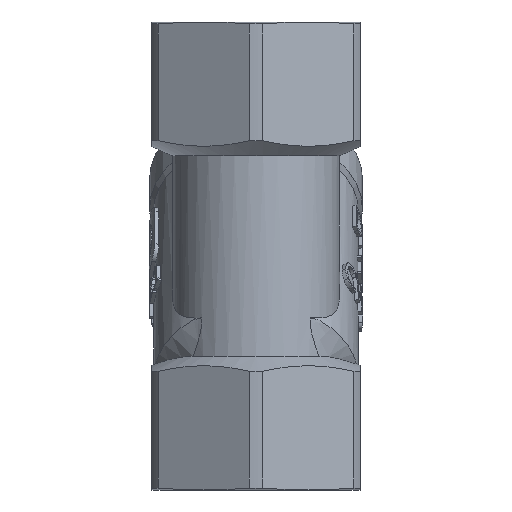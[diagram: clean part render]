
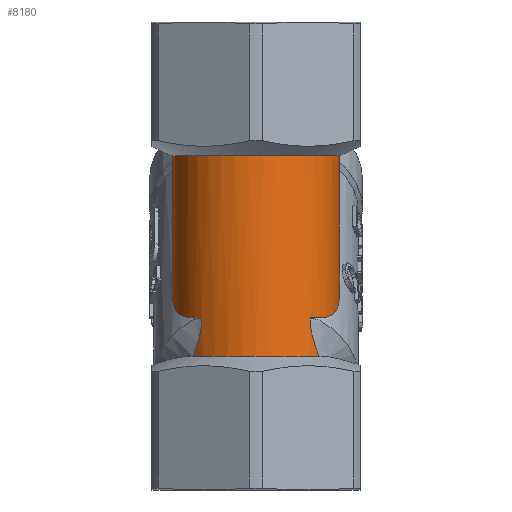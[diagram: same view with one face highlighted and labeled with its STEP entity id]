
A CAD part, front view. The second image highlights one B-rep face of the part: STEP entity #8180.
In plain terms, the highlighted cylindrical face has radius 10 mm (diameter 20 mm), a partial arc.
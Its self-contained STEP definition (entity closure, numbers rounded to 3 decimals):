
#860=FACE_OUTER_BOUND('',#1344,.T.);
#1344=EDGE_LOOP('',(#7427,#7428,#7429,#7430,#7431,#7432));
#1482=CIRCLE('',#8511,10.);
#1483=CIRCLE('',#8512,10.);
#1862=B_SPLINE_CURVE_WITH_KNOTS('',3,(#26127,#26128,#26129,#26130,#26131,
#26132,#26133,#26134,#26135,#26136,#26137,#26138,#26139,#26140,#26141,#26142,
#26143,#26144,#26145,#26146,#26147,#26148,#26149),.UNSPECIFIED.,.F.,.F.,
(4,2,2,2,2,3,2,2,2,2,4),(-2.005,-1.93,-1.271,
-0.636,-0.318,0.,0.206,0.411,
0.617,0.822,0.918),.UNSPECIFIED.);
#1865=B_SPLINE_CURVE_WITH_KNOTS('',3,(#26171,#26172,#26173,#26174,#26175,
#26176,#26177,#26178,#26179,#26180,#26181,#26182,#26183,#26184,#26185,#26186,
#26187,#26188,#26189,#26190,#26191,#26192),.UNSPECIFIED.,.F.,.F.,(4,2,2,
2,2,2,2,2,2,2,4),(-5.485,-5.39,-5.184,
-4.979,-4.773,-4.567,-4.25,
-3.932,-3.296,-2.637,-2.563),
 .UNSPECIFIED.);
#2220=B_SPLINE_CURVE_WITH_KNOTS('',3,(#31902,#31903,#31904,#31905,#31906,
#31907,#31908),.UNSPECIFIED.,.F.,.F.,(4,1,1,1,4),(-4.569,-4.381,
-4.18,-4.08,-4.017),.UNSPECIFIED.);
#2222=B_SPLINE_CURVE_WITH_KNOTS('',3,(#31950,#31951,#31952,#31953,#31954,
#31955,#31956),.UNSPECIFIED.,.F.,.F.,(4,1,1,1,4),(-2.297,-2.235,
-2.134,-1.933,-1.746),.UNSPECIFIED.);
#3384=VERTEX_POINT('',#26097);
#3385=VERTEX_POINT('',#26126);
#3390=VERTEX_POINT('',#26163);
#3391=VERTEX_POINT('',#26170);
#3762=VERTEX_POINT('',#31895);
#3763=VERTEX_POINT('',#31941);
#4430=EDGE_CURVE('',#3385,#3384,#1862,.T.);
#4436=EDGE_CURVE('',#3391,#3390,#1865,.T.);
#4997=EDGE_CURVE('',#3762,#3384,#2220,.T.);
#4999=EDGE_CURVE('',#3391,#3763,#2222,.T.);
#5000=EDGE_CURVE('',#3762,#3763,#1482,.T.);
#5001=EDGE_CURVE('',#3390,#3385,#1483,.T.);
#7427=ORIENTED_EDGE('',*,*,#4997,.F.);
#7428=ORIENTED_EDGE('',*,*,#5000,.T.);
#7429=ORIENTED_EDGE('',*,*,#4999,.F.);
#7430=ORIENTED_EDGE('',*,*,#4436,.T.);
#7431=ORIENTED_EDGE('',*,*,#5001,.T.);
#7432=ORIENTED_EDGE('',*,*,#4430,.T.);
#7754=CYLINDRICAL_SURFACE('',#8510,10.);
#8180=ADVANCED_FACE('',(#860),#7754,.T.);
#8510=AXIS2_PLACEMENT_3D('',#31957,#9471,#9472);
#8511=AXIS2_PLACEMENT_3D('',#31958,#9473,#9474);
#8512=AXIS2_PLACEMENT_3D('',#31959,#9475,#9476);
#9471=DIRECTION('center_axis',(0.,0.,1.));
#9472=DIRECTION('ref_axis',(0.,-1.,0.));
#9473=DIRECTION('center_axis',(0.,0.,1.));
#9474=DIRECTION('ref_axis',(0.,-1.,0.));
#9475=DIRECTION('center_axis',(0.,0.,-1.));
#9476=DIRECTION('ref_axis',(0.,-1.,0.));
#26097=CARTESIAN_POINT('',(-6.509,-7.591,-7.417));
#26126=CARTESIAN_POINT('',(-2.741,9.617,12.));
#26127=CARTESIAN_POINT('Ctrl Pts',(-2.741,9.617,12.));
#26128=CARTESIAN_POINT('Ctrl Pts',(-2.959,9.555,11.867));
#26129=CARTESIAN_POINT('Ctrl Pts',(-3.164,9.488,11.725));
#26130=CARTESIAN_POINT('Ctrl Pts',(-5.038,8.821,10.303));
#26131=CARTESIAN_POINT('Ctrl Pts',(-6.34,7.835,8.234));
#26132=CARTESIAN_POINT('Ctrl Pts',(-8.05,6.055,4.694));
#26133=CARTESIAN_POINT('Ctrl Pts',(-8.729,5.034,2.73));
#26134=CARTESIAN_POINT('Ctrl Pts',(-9.454,3.319,-0.153));
#26135=CARTESIAN_POINT('Ctrl Pts',(-9.646,2.717,-1.102));
#26136=CARTESIAN_POINT('Ctrl Pts',(-9.919,1.432,-2.899));
#26137=CARTESIAN_POINT('Ctrl Pts',(-10.,0.749,-3.746));
#26138=CARTESIAN_POINT('Ctrl Pts',(-10.,0.,-4.496));
#26139=CARTESIAN_POINT('Ctrl Pts',(-10.,-0.485,-4.98));
#26140=CARTESIAN_POINT('Ctrl Pts',(-9.965,-1.024,
-5.447));
#26141=CARTESIAN_POINT('Ctrl Pts',(-9.776,-2.183,
-6.244));
#26142=CARTESIAN_POINT('Ctrl Pts',(-9.622,-2.804,
-6.572));
#26143=CARTESIAN_POINT('Ctrl Pts',(-9.166,-4.052,
-7.05));
#26144=CARTESIAN_POINT('Ctrl Pts',(-8.863,-4.683,
-7.204));
#26145=CARTESIAN_POINT('Ctrl Pts',(-8.123,-5.875,
-7.388));
#26146=CARTESIAN_POINT('Ctrl Pts',(-7.685,-6.435,
-7.42));
#26147=CARTESIAN_POINT('Ctrl Pts',(-6.991,-7.158,
-7.428));
#26148=CARTESIAN_POINT('Ctrl Pts',(-6.756,-7.379,
-7.425));
#26149=CARTESIAN_POINT('Ctrl Pts',(-6.509,-7.591,
-7.417));
#26163=CARTESIAN_POINT('',(2.741,9.617,12.));
#26170=CARTESIAN_POINT('',(6.509,-7.591,-7.417));
#26171=CARTESIAN_POINT('Ctrl Pts',(6.509,-7.591,-7.417));
#26172=CARTESIAN_POINT('Ctrl Pts',(6.756,-7.379,-7.425));
#26173=CARTESIAN_POINT('Ctrl Pts',(6.991,-7.158,-7.428));
#26174=CARTESIAN_POINT('Ctrl Pts',(7.685,-6.435,-7.42));
#26175=CARTESIAN_POINT('Ctrl Pts',(8.123,-5.875,-7.388));
#26176=CARTESIAN_POINT('Ctrl Pts',(8.863,-4.683,-7.204));
#26177=CARTESIAN_POINT('Ctrl Pts',(9.166,-4.052,-7.05));
#26178=CARTESIAN_POINT('Ctrl Pts',(9.622,-2.804,-6.572));
#26179=CARTESIAN_POINT('Ctrl Pts',(9.776,-2.183,-6.244));
#26180=CARTESIAN_POINT('Ctrl Pts',(9.965,-1.024,-5.447));
#26181=CARTESIAN_POINT('Ctrl Pts',(10.,-0.485,-4.98));
#26182=CARTESIAN_POINT('Ctrl Pts',(10.,0.749,-3.746));
#26183=CARTESIAN_POINT('Ctrl Pts',(9.919,1.432,-2.899));
#26184=CARTESIAN_POINT('Ctrl Pts',(9.646,2.717,-1.102));
#26185=CARTESIAN_POINT('Ctrl Pts',(9.454,3.319,-0.153));
#26186=CARTESIAN_POINT('Ctrl Pts',(8.729,5.034,2.73));
#26187=CARTESIAN_POINT('Ctrl Pts',(8.05,6.055,4.694));
#26188=CARTESIAN_POINT('Ctrl Pts',(6.34,7.835,8.234));
#26189=CARTESIAN_POINT('Ctrl Pts',(5.038,8.821,10.303));
#26190=CARTESIAN_POINT('Ctrl Pts',(3.164,9.488,11.725));
#26191=CARTESIAN_POINT('Ctrl Pts',(2.959,9.555,11.867));
#26192=CARTESIAN_POINT('Ctrl Pts',(2.741,9.617,12.));
#31895=CARTESIAN_POINT('',(-7.525,-6.585,-12.));
#31902=CARTESIAN_POINT('Ctrl Pts',(-7.525,-6.585,
-12.));
#31903=CARTESIAN_POINT('Ctrl Pts',(-7.37,-6.763,
-11.563));
#31904=CARTESIAN_POINT('Ctrl Pts',(-7.047,-7.108,-10.628));
#31905=CARTESIAN_POINT('Ctrl Pts',(-6.654,-7.468,
-9.336));
#31906=CARTESIAN_POINT('Ctrl Pts',(-6.479,-7.617,-8.178));
#31907=CARTESIAN_POINT('Ctrl Pts',(-6.49,-7.608,
-7.622));
#31908=CARTESIAN_POINT('Ctrl Pts',(-6.509,-7.591,
-7.417));
#31941=CARTESIAN_POINT('',(7.527,-6.584,-12.));
#31950=CARTESIAN_POINT('Ctrl Pts',(6.509,-7.591,-7.417));
#31951=CARTESIAN_POINT('Ctrl Pts',(6.49,-7.608,-7.622));
#31952=CARTESIAN_POINT('Ctrl Pts',(6.479,-7.617,-8.178));
#31953=CARTESIAN_POINT('Ctrl Pts',(6.655,-7.467,-9.333));
#31954=CARTESIAN_POINT('Ctrl Pts',(7.043,-7.11,-10.638));
#31955=CARTESIAN_POINT('Ctrl Pts',(7.371,-6.762,-11.563));
#31956=CARTESIAN_POINT('Ctrl Pts',(7.526,-6.584,-11.999));
#31957=CARTESIAN_POINT('Origin',(0.,0.,0.));
#31958=CARTESIAN_POINT('Origin',(0.,0.,-12.));
#31959=CARTESIAN_POINT('Origin',(0.,0.,12.));
